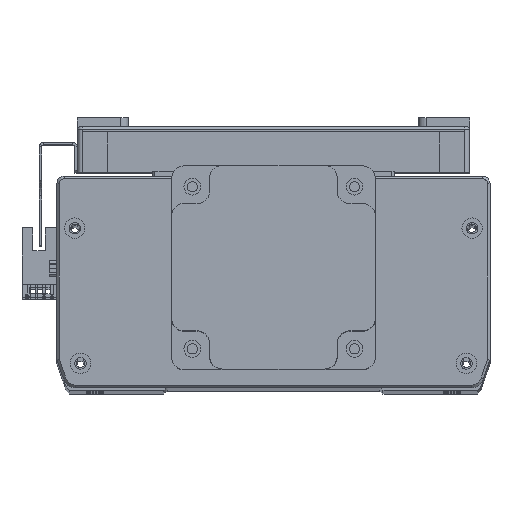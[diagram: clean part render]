
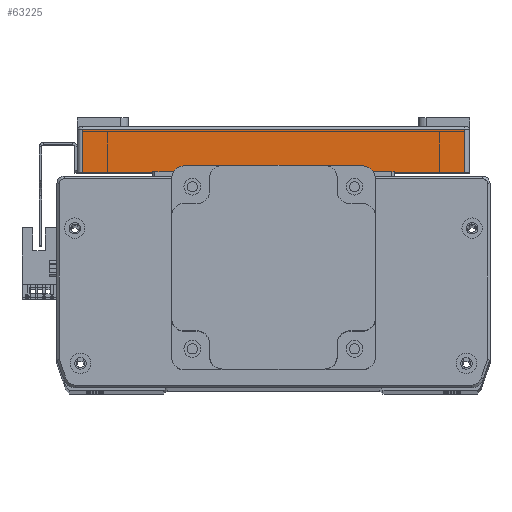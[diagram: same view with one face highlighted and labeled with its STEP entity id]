
A CAD part, top view. The second image highlights one B-rep face of the part: STEP entity #63225.
In plain terms, the highlighted planar face has unit normal (0, 0, 1) as drawn and (-1, 0, 0) by its records, which use the part's own axes.
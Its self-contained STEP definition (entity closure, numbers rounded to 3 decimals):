
#12 = PLANE ( 'NONE',  #19169 ) ;
#19 = CARTESIAN_POINT ( 'NONE',  ( -115., 18., -77. ) ) ;
#28 = DIRECTION ( 'NONE',  ( 1., 0., 0. ) ) ;
#8698 = EDGE_CURVE ( 'NONE', #38747, #34784, #47296, .T. ) ;
#8731 = EDGE_CURVE ( 'NONE', #34784, #60408, #47372, .T. ) ;
#8738 = EDGE_CURVE ( 'NONE', #60408, #38761, #47420, .T. ) ;
#8765 = EDGE_CURVE ( 'NONE', #38761, #38747, #47429, .T. ) ;
#15839 = CARTESIAN_POINT ( 'NONE',  ( -115., 0., -75. ) ) ;
#15858 = CARTESIAN_POINT ( 'NONE',  ( -115., 0., 75. ) ) ;
#19169 = AXIS2_PLACEMENT_3D ( 'NONE', #19, #28, #65381 ) ;
#22761 = ORIENTED_EDGE ( 'NONE', *, *, #8738, .T. ) ;
#22784 = ORIENTED_EDGE ( 'NONE', *, *, #8731, .T. ) ;
#31179 = EDGE_LOOP ( 'NONE', ( #56134, #22784, #22761, #55932 ) ) ;
#34784 = VERTEX_POINT ( 'NONE', #57195 ) ;
#38747 = VERTEX_POINT ( 'NONE', #15858 ) ;
#38761 = VERTEX_POINT ( 'NONE', #15839 ) ;
#47296 = LINE ( 'NONE', #64743, #47337 ) ;
#47337 = VECTOR ( 'NONE', #64944, 1000. ) ;
#47372 = LINE ( 'NONE', #65093, #47413 ) ;
#47376 = VECTOR ( 'NONE', #65130, 1000. ) ;
#47413 = VECTOR ( 'NONE', #65114, 1000. ) ;
#47420 = LINE ( 'NONE', #65153, #47376 ) ;
#47429 = LINE ( 'NONE', #65263, #47471 ) ;
#47471 = VECTOR ( 'NONE', #65229, 1000. ) ;
#50433 = CARTESIAN_POINT ( 'NONE',  ( -115., 17., -75. ) ) ;
#55932 = ORIENTED_EDGE ( 'NONE', *, *, #8765, .T. ) ;
#56134 = ORIENTED_EDGE ( 'NONE', *, *, #8698, .T. ) ;
#56447 = FACE_OUTER_BOUND ( 'NONE', #31179, .T. ) ;
#57195 = CARTESIAN_POINT ( 'NONE',  ( -115., 17., 75. ) ) ;
#60408 = VERTEX_POINT ( 'NONE', #50433 ) ;
#63225 = ADVANCED_FACE ( 'NONE', ( #56447 ), #12, .F. ) ;
#64743 = CARTESIAN_POINT ( 'NONE',  ( -115., 18., 75. ) ) ;
#64944 = DIRECTION ( 'NONE',  ( 0., 1., 0. ) ) ;
#65093 = CARTESIAN_POINT ( 'NONE',  ( -115., 17., -75. ) ) ;
#65114 = DIRECTION ( 'NONE',  ( 0., 0., -1. ) ) ;
#65130 = DIRECTION ( 'NONE',  ( 0., -1., 0. ) ) ;
#65153 = CARTESIAN_POINT ( 'NONE',  ( -115., 18., -75. ) ) ;
#65229 = DIRECTION ( 'NONE',  ( 0., 0., 1. ) ) ;
#65263 = CARTESIAN_POINT ( 'NONE',  ( -115., 0., -77. ) ) ;
#65381 = DIRECTION ( 'NONE',  ( 0., 0., -1. ) ) ;
